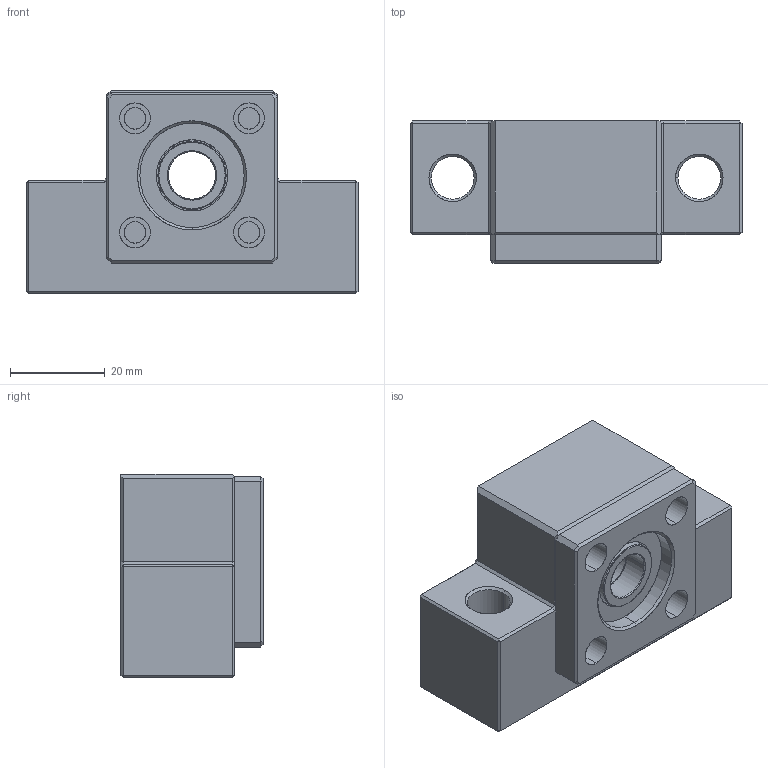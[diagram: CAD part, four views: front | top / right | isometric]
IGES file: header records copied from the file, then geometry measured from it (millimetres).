
Start section: SolidWorks IGES file using analytic representation for surfaces
Global section: file name: E:\同创达图纸\产品示意图\3D选型图\支撑座\EK系列\EK10.IGS; native system: SolidWorks 2012; preprocessor: SolidWorks 2012; author: gao; date: 130702.200538; units: millimetre
Bounding box: 70 x 30 x 43 mm (x, y, z)
Surface area: 15092.5 mm2 (no closed solid volume)
Topology: 0 solids, 0 shells, 148 faces, 1768 edges, 1768 vertices
Faces by surface type: bspline 82, revolution 66
